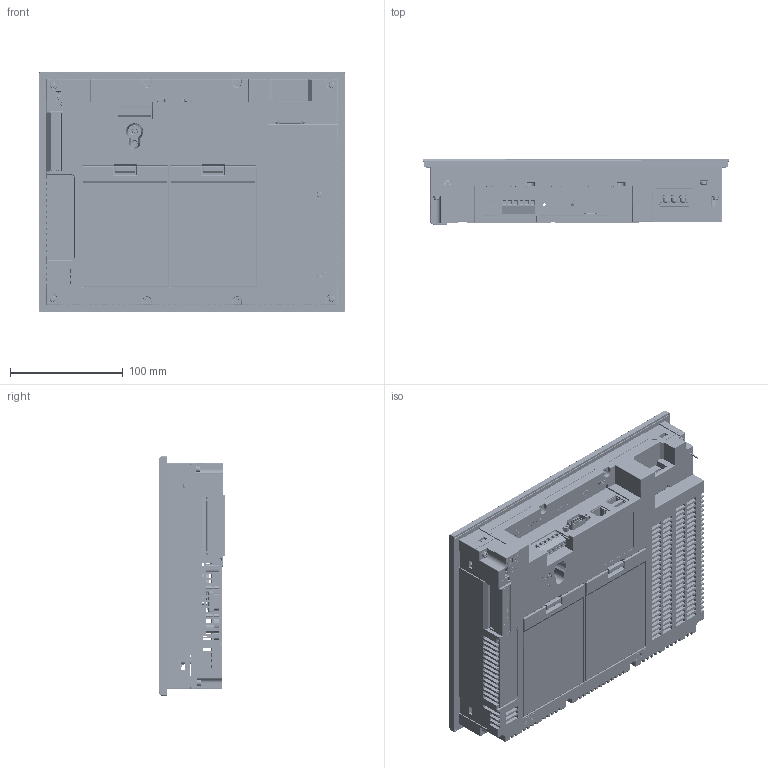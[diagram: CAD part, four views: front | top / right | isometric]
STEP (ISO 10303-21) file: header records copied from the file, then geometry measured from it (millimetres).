
FILE_DESCRIPTION((''),'2;1');
FILE_NAME('IXP70_160817','2016-08-17T',('jwkwack'),(''),'PRO/ENGINEER BY PARAMETRIC TECHNOLOGY CORPORATION, 2013240','PRO/ENGINEER BY PARAMETRIC TECHNOLOGY CORPORATION, 2013240','');
FILE_SCHEMA(('CONFIG_CONTROL_DESIGN'));
Products named in the file (1): IXP70_160817
Bounding box: 270.5 x 59.05 x 212.5 mm (x, y, z)
Surface area: 973973.3 mm2 (no closed solid volume)
Topology: 0 solids, 90 shells, 19097 faces, 55254 edges, 36028 vertices
Faces by surface type: plane 16319, cylinder 2252, cone 256, torus 122, sphere 96, bspline 30, extrusion 22
Entity records: 621481 total; most frequent: CARTESIAN_POINT 117792, ORIENTED_EDGE 107071, DIRECTION 97489, EDGE_CURVE 55154, VECTOR 47959, LINE 47937, VERTEX_POINT 36028, AXIS2_PLACEMENT_3D 24765
